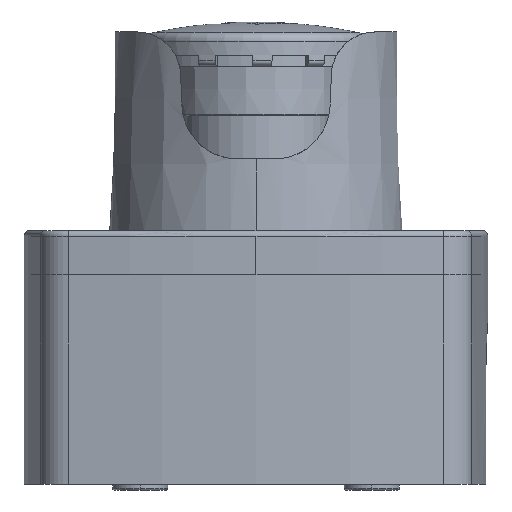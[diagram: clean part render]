
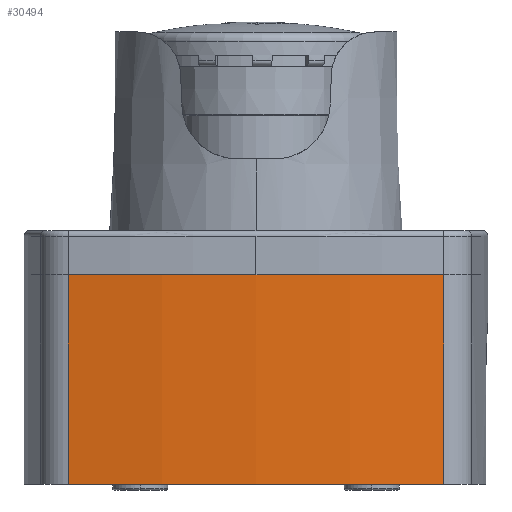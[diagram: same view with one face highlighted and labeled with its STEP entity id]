
A CAD part, left-side view. The second image highlights one B-rep face of the part: STEP entity #30494.
In plain terms, the highlighted cylindrical face has radius 200 mm (diameter 400 mm), a partial arc.
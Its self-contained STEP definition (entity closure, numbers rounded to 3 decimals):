
#236 = CARTESIAN_POINT ( 'NONE',  ( -39.08, -34.05, -38. ) ) ;
#1735 = DIRECTION ( 'NONE',  ( 0., 0., 1. ) ) ;
#2610 = CARTESIAN_POINT ( 'NONE',  ( -39.08, 34.05, -38. ) ) ;
#7076 = AXIS2_PLACEMENT_3D ( 'NONE', #18163, #39571, #15261 ) ;
#9069 = CARTESIAN_POINT ( 'NONE',  ( -39.08, -34.05, 0. ) ) ;
#10746 = LINE ( 'NONE', #29756, #34207 ) ;
#10915 = VERTEX_POINT ( 'NONE', #2610 ) ;
#12207 = DIRECTION ( 'NONE',  ( 0., 0., 1. ) ) ;
#13529 = FACE_OUTER_BOUND ( 'NONE', #23044, .T. ) ;
#14783 = VERTEX_POINT ( 'NONE', #9069 ) ;
#15261 = DIRECTION ( 'NONE',  ( 1., 0., 0. ) ) ;
#15957 = CARTESIAN_POINT ( 'NONE',  ( 158., 0., -38. ) ) ;
#16428 = CIRCLE ( 'NONE', #7076, 200. ) ;
#16657 = AXIS2_PLACEMENT_3D ( 'NONE', #39647, #39446, #38814 ) ;
#17113 = EDGE_CURVE ( 'NONE', #10915, #17866, #27224, .T. ) ;
#17224 = ORIENTED_EDGE ( 'NONE', *, *, #24624, .T. ) ;
#17621 = DIRECTION ( 'NONE',  ( 0., 0., 1. ) ) ;
#17866 = VERTEX_POINT ( 'NONE', #22354 ) ;
#18163 = CARTESIAN_POINT ( 'NONE',  ( 158., 0., 0. ) ) ;
#18946 = EDGE_CURVE ( 'NONE', #17866, #14783, #16428, .T. ) ;
#22354 = CARTESIAN_POINT ( 'NONE',  ( -39.08, 34.05, 0. ) ) ;
#23044 = EDGE_LOOP ( 'NONE', ( #29068, #26804, #32719, #17224 ) ) ;
#24624 = EDGE_CURVE ( 'NONE', #10915, #33634, #29164, .T. ) ;
#26637 = CYLINDRICAL_SURFACE ( 'NONE', #16657, 200. ) ;
#26804 = ORIENTED_EDGE ( 'NONE', *, *, #18946, .F. ) ;
#27224 = LINE ( 'NONE', #30005, #38135 ) ;
#29068 = ORIENTED_EDGE ( 'NONE', *, *, #32602, .T. ) ;
#29164 = CIRCLE ( 'NONE', #29850, 200. ) ;
#29756 = CARTESIAN_POINT ( 'NONE',  ( -39.08, -34.05, -38. ) ) ;
#29850 = AXIS2_PLACEMENT_3D ( 'NONE', #15957, #12207, #40623 ) ;
#30005 = CARTESIAN_POINT ( 'NONE',  ( -39.08, 34.05, -38. ) ) ;
#30494 = ADVANCED_FACE ( 'NONE', ( #13529 ), #26637, .T. ) ;
#32602 = EDGE_CURVE ( 'NONE', #33634, #14783, #10746, .T. ) ;
#32719 = ORIENTED_EDGE ( 'NONE', *, *, #17113, .F. ) ;
#33634 = VERTEX_POINT ( 'NONE', #236 ) ;
#34207 = VECTOR ( 'NONE', #17621, 1000. ) ;
#38135 = VECTOR ( 'NONE', #1735, 1000. ) ;
#38814 = DIRECTION ( 'NONE',  ( 1., 0., 0. ) ) ;
#39446 = DIRECTION ( 'NONE',  ( 0., 0., 1. ) ) ;
#39571 = DIRECTION ( 'NONE',  ( 0., 0., 1. ) ) ;
#39647 = CARTESIAN_POINT ( 'NONE',  ( 158., 0., -38. ) ) ;
#40623 = DIRECTION ( 'NONE',  ( 1., 0., 0. ) ) ;
